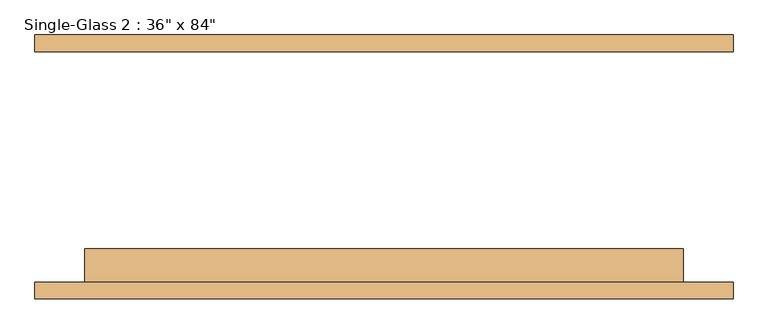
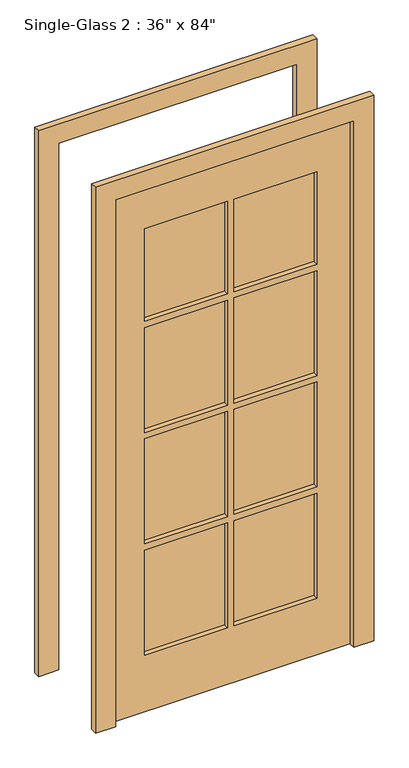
"""IFC4 building model written with IfcOpenShell, lengths in millimetres: door geometry."""

from ifc_helpers import new_model, si_unit, frame, origin, place, context, project, spatial, polyline, outline, extrude, source, transform, mapped, element, save


def door_a9778593(model_context):
    return source(origin(), model_context, "Body", "SweptSolid", [
        extrude(outline(polyline([(2209.8, 558.8), (2209.8, -508.0), (0.0, -508.0), (0.0, -431.8), (2133.6, -431.8), (2133.6, 482.6), (0.0, 482.6), (0.0, 558.8), (2209.8, 558.8)])), frame((0.0, 176.2125, 0.0), z_axis=(0.0, 1.0, 0.0), x_axis=(0.0, 0.0, 1.0)), (0.0, 0.0, 1.0), 25.4),
        extrude(outline(polyline([(2209.8, -508.0), (0.0, -508.0), (0.0, -431.8), (2133.6, -431.8), (2133.6, 482.6), (0.0, 482.6), (0.0, 558.8), (2209.8, 558.8), (2209.8, -508.0)])), frame((0.0, -201.6125, 0.0), z_axis=(0.0, 1.0, 0.0), x_axis=(0.0, 0.0, 1.0)), (0.0, 0.0, 1.0), 25.4),
        extrude(outline(polyline([(2133.6, 482.6), (2133.6, -431.8), (0.0, -431.8), (0.0, 482.6), (2133.6, 482.6)]), holes=[polyline([(1955.8, 12.7), (1581.15, 12.7), (1581.15, -304.8), (1955.8, -304.8), (1955.8, 12.7)]), polyline([(1955.8, 355.6), (1581.15, 355.6), (1581.15, 38.1), (1955.8, 38.1), (1955.8, 355.6)]), polyline([(1555.75, 12.7), (1130.3, 12.7), (1130.3, -304.8), (1555.75, -304.8), (1555.75, 12.7)]), polyline([(1555.75, 355.6), (1130.3, 355.6), (1130.3, 38.1), (1555.75, 38.1), (1555.75, 355.6)]), polyline([(1104.9, 12.7), (679.45, 12.7), (679.45, -304.8), (1104.9, -304.8), (1104.9, 12.7)]), polyline([(1104.9, 355.6), (679.45, 355.6), (679.45, 38.1), (1104.9, 38.1), (1104.9, 355.6)]), polyline([(654.05, 12.7), (228.6, 12.7), (228.6, -304.8), (654.05, -304.8), (654.05, 12.7)]), polyline([(654.05, 355.6), (228.6, 355.6), (228.6, 38.1), (654.05, 38.1), (654.05, 355.6)])]), frame((0.0, -176.2125, 0.0), z_axis=(0.0, 1.0, 0.0), x_axis=(0.0, 0.0, 1.0)), (0.0, 0.0, 1.0), 50.8),
        extrude(outline(polyline([(12.7, -144.4625), (12.7, -157.1625), (-304.8, -157.1625), (-304.8, -144.4625), (12.7, -144.4625)])), frame((0.0, 0.0, 1581.15), z_axis=(0.0, 0.0, 1.0), x_axis=(1.0, 0.0, 0.0)), (0.0, 0.0, 1.0), 374.65),
        extrude(outline(polyline([(355.6, -144.4625), (355.6, -157.1625), (38.1, -157.1625), (38.1, -144.4625), (355.6, -144.4625)])), frame((0.0, 0.0, 1581.15), z_axis=(0.0, 0.0, 1.0), x_axis=(1.0, 0.0, 0.0)), (0.0, 0.0, 1.0), 374.65),
        extrude(outline(polyline([(355.6, -144.4625), (355.6, -157.1625), (38.1, -157.1625), (38.1, -144.4625), (355.6, -144.4625)])), frame((0.0, 0.0, 1130.3), z_axis=(0.0, 0.0, 1.0), x_axis=(1.0, 0.0, 0.0)), (0.0, 0.0, 1.0), 425.45),
        extrude(outline(polyline([(12.7, -144.4625), (12.7, -157.1625), (-304.8, -157.1625), (-304.8, -144.4625), (12.7, -144.4625)])), frame((0.0, 0.0, 1130.3), z_axis=(0.0, 0.0, 1.0), x_axis=(1.0, 0.0, 0.0)), (0.0, 0.0, 1.0), 425.45),
        extrude(outline(polyline([(12.7, -144.4625), (12.7, -157.1625), (-304.8, -157.1625), (-304.8, -144.4625), (12.7, -144.4625)])), frame((0.0, 0.0, 679.45), z_axis=(0.0, 0.0, 1.0), x_axis=(1.0, 0.0, 0.0)), (0.0, 0.0, 1.0), 425.45),
        extrude(outline(polyline([(355.6, -144.4625), (355.6, -157.1625), (38.1, -157.1625), (38.1, -144.4625), (355.6, -144.4625)])), frame((0.0, 0.0, 679.45), z_axis=(0.0, 0.0, 1.0), x_axis=(1.0, 0.0, 0.0)), (0.0, 0.0, 1.0), 425.45),
        extrude(outline(polyline([(355.6, -144.4625), (355.6, -157.1625), (38.1, -157.1625), (38.1, -144.4625), (355.6, -144.4625)])), frame((0.0, 0.0, 228.6), z_axis=(0.0, 0.0, 1.0), x_axis=(1.0, 0.0, 0.0)), (0.0, 0.0, 1.0), 425.45),
        extrude(outline(polyline([(12.7, -144.4625), (12.7, -157.1625), (-304.8, -157.1625), (-304.8, -144.4625), (12.7, -144.4625)])), frame((0.0, 0.0, 228.6), z_axis=(0.0, 0.0, 1.0), x_axis=(1.0, 0.0, 0.0)), (0.0, 0.0, 1.0), 425.45),
    ])


if __name__ == "__main__":
    model = new_model("IFC4")
    model_context = context("Model", 3, world=origin())
    ifc_project = project(units=[si_unit("LENGTHUNIT", "METRE", prefix="MILLI")], contexts=[model_context])
    site = spatial("IfcSite", under=ifc_project)
    building = spatial("IfcBuilding", under=site)
    placement = place(None, origin())
    door_shape = door_a9778593(model_context)
    element("IfcDoor", 1, ObjectType="Single-Glass 2 : 36\" x 84\"", at=placement, inside=building, context=model_context, shape_type="MappedRepresentation", body=[
        mapped(door_shape, transform((0.0, 0.0, 0.0), x_axis=(1.0, 0.0, 0.0), y_axis=(0.0, 1.0, 0.0), z_axis=(0.0, 0.0, 1.0))),
    ])
    save(model, "model.ifc")
